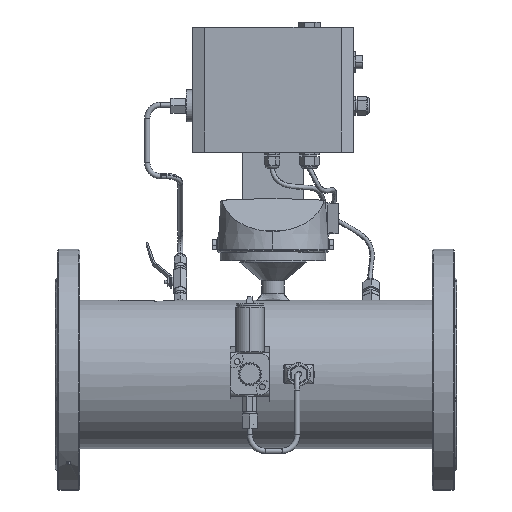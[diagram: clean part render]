
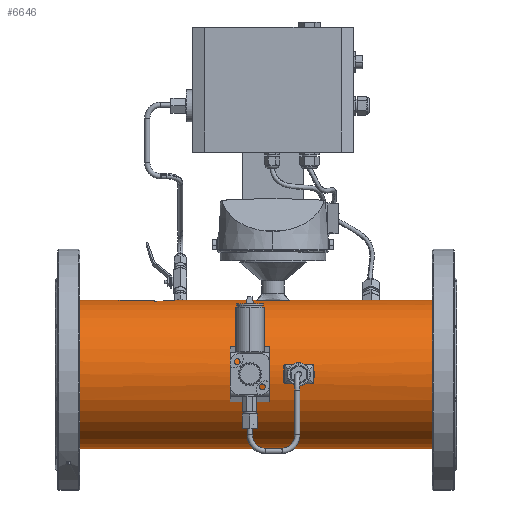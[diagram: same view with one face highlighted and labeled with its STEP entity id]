
A CAD part, top view. The second image highlights one B-rep face of the part: STEP entity #6646.
In plain terms, the highlighted cylindrical face has radius 83.2 mm (diameter 166.4 mm), a partial arc.
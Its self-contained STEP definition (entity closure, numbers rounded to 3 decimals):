
#5534=CARTESIAN_POINT('',(249.5,10.77,82.5));
#5535=CARTESIAN_POINT('',(248.563,3.59,83.437));
#5536=CARTESIAN_POINT('',(248.563,-3.59,83.437));
#5537=CARTESIAN_POINT('',(249.5,-10.77,82.5));
#5542=DIRECTION('',(1.,0.,0.));
#5543=VECTOR('',#5542,33.);
#5544=CARTESIAN_POINT('',(249.5,-10.77,82.5));
#5545=LINE('',#5544,#5543);
#5549=CARTESIAN_POINT('',(282.5,-10.77,82.5));
#5550=CARTESIAN_POINT('',(283.437,-3.59,83.437));
#5551=CARTESIAN_POINT('',(283.437,3.59,83.437));
#5552=CARTESIAN_POINT('',(282.5,10.77,82.5));
#5557=DIRECTION('',(1.,0.,0.));
#5558=VECTOR('',#5557,33.);
#5559=CARTESIAN_POINT('',(249.5,10.77,82.5));
#5560=LINE('',#5559,#5558);
#5564=CARTESIAN_POINT('',(64.34,0.,0.));
#5565=DIRECTION('',(1.,0.,0.));
#5566=DIRECTION('',(0.,1.,0.));
#5567=AXIS2_PLACEMENT_3D('',#5564,#5565,#5566);
#5572=DIRECTION('',(1.,0.,0.));
#5573=VECTOR('',#5572,40.);
#5574=CARTESIAN_POINT('',(64.34,82.983,6.));
#5575=LINE('',#5574,#5573);
#5579=CARTESIAN_POINT('',(104.34,0.,0.));
#5580=DIRECTION('',(1.,0.,0.));
#5581=DIRECTION('',(0.,0.997,0.072));
#5582=AXIS2_PLACEMENT_3D('',#5579,#5580,#5581);
#5587=CARTESIAN_POINT('',(130.321,83.2,0.));
#5588=CARTESIAN_POINT('',(121.642,83.2,5.01));
#5589=CARTESIAN_POINT('',(112.982,82.751,10.011));
#5590=CARTESIAN_POINT('',(104.34,81.837,15.));
#5595=CARTESIAN_POINT('',(218.3,83.2,0.));
#5596=CARTESIAN_POINT('',(218.3,83.2,3.62));
#5597=CARTESIAN_POINT('',(218.535,82.965,7.21));
#5598=CARTESIAN_POINT('',(219.,82.5,10.77));
#5603=DIRECTION('',(1.,0.,0.));
#5604=VECTOR('',#5603,36.);
#5605=CARTESIAN_POINT('',(219.,82.5,10.77));
#5606=LINE('',#5605,#5604);
#5610=CARTESIAN_POINT('',(255.7,83.2,0.));
#5611=CARTESIAN_POINT('',(255.7,83.2,3.62));
#5612=CARTESIAN_POINT('',(255.465,82.965,7.21));
#5613=CARTESIAN_POINT('',(255.,82.5,10.77));
#5618=CARTESIAN_POINT('',(416.,0.,0.));
#5619=DIRECTION('',(1.,0.,0.));
#5620=DIRECTION('',(0.,1.,0.));
#5621=AXIS2_PLACEMENT_3D('',#5618,#5619,#5620);
#5626=CARTESIAN_POINT('',(19.5,0.,0.));
#5627=DIRECTION('',(1.,0.,0.));
#5628=DIRECTION('',(0.,1.,0.));
#5629=AXIS2_PLACEMENT_3D('',#5626,#5627,#5628);
#5843=DIRECTION('',(-1.,0.,0.));
#5844=VECTOR('',#5843,44.84);
#5845=CARTESIAN_POINT('',(64.34,83.2,0.));
#5846=LINE('',#5845,#5844);
#5858=DIRECTION('',(-1.,0.,0.));
#5859=VECTOR('',#5858,396.5);
#5860=CARTESIAN_POINT('',(416.,-83.2,0.));
#5861=LINE('',#5860,#5859);
#5873=DIRECTION('',(-1.,0.,0.));
#5874=VECTOR('',#5873,160.3);
#5875=CARTESIAN_POINT('',(416.,83.2,0.));
#5876=LINE('',#5875,#5874);
#5903=DIRECTION('',(-1.,0.,0.));
#5904=VECTOR('',#5903,87.979);
#5905=CARTESIAN_POINT('',(218.3,83.2,0.));
#5906=LINE('',#5905,#5904);
#6395=CARTESIAN_POINT('',(416.,83.2,0.));
#6396=CARTESIAN_POINT('',(416.,-83.2,0.));
#6397=VERTEX_POINT('',#6395);
#6398=VERTEX_POINT('',#6396);
#6399=VERTEX_POINT('',#5595);
#6400=VERTEX_POINT('',#5598);
#6401=CARTESIAN_POINT('',(255.,82.5,10.77));
#6402=VERTEX_POINT('',#6401);
#6403=VERTEX_POINT('',#5610);
#6423=VERTEX_POINT('',#5534);
#6424=VERTEX_POINT('',#5537);
#6425=VERTEX_POINT('',#5549);
#6426=VERTEX_POINT('',#5552);
#6431=CARTESIAN_POINT('',(19.5,83.2,0.));
#6432=CARTESIAN_POINT('',(19.5,-83.2,0.));
#6433=VERTEX_POINT('',#6431);
#6434=VERTEX_POINT('',#6432);
#6499=CARTESIAN_POINT('',(64.34,83.2,0.));
#6500=CARTESIAN_POINT('',(64.34,82.983,6.));
#6501=VERTEX_POINT('',#6499);
#6502=VERTEX_POINT('',#6500);
#6503=CARTESIAN_POINT('',(104.34,82.983,6.));
#6504=VERTEX_POINT('',#6503);
#6505=CARTESIAN_POINT('',(104.34,81.837,15.));
#6506=VERTEX_POINT('',#6505);
#6507=VERTEX_POINT('',#5587);
#6604=CARTESIAN_POINT('',(-21.85,0.,0.));
#6605=DIRECTION('',(1.,0.,0.));
#6606=DIRECTION('',(0.,-1.,0.));
#6607=AXIS2_PLACEMENT_3D('',#6604,#6605,#6606);
#6608=CYLINDRICAL_SURFACE('',#6607,83.2);
#6610=ORIENTED_EDGE('',*,*,#6609,.T.);
#6612=ORIENTED_EDGE('',*,*,#6611,.T.);
#6614=ORIENTED_EDGE('',*,*,#6613,.T.);
#6616=ORIENTED_EDGE('',*,*,#6615,.F.);
#6618=ORIENTED_EDGE('',*,*,#6617,.F.);
#6620=ORIENTED_EDGE('',*,*,#6619,.T.);
#6622=ORIENTED_EDGE('',*,*,#6621,.T.);
#6624=ORIENTED_EDGE('',*,*,#6623,.F.);
#6626=ORIENTED_EDGE('',*,*,#6625,.F.);
#6627=ORIENTED_EDGE('',*,*,#6586,.T.);
#6629=ORIENTED_EDGE('',*,*,#6628,.T.);
#6631=ORIENTED_EDGE('',*,*,#6630,.F.);
#6633=ORIENTED_EDGE('',*,*,#6632,.F.);
#6634=EDGE_LOOP('',(#6610,#6612,#6614,#6616,#6618,#6620,#6622,#6624,#6626,#6627,
#6629,#6631,#6633));
#6635=FACE_OUTER_BOUND('',#6634,.F.);
#6637=ORIENTED_EDGE('',*,*,#6636,.T.);
#6639=ORIENTED_EDGE('',*,*,#6638,.T.);
#6641=ORIENTED_EDGE('',*,*,#6640,.T.);
#6643=ORIENTED_EDGE('',*,*,#6642,.F.);
#6644=EDGE_LOOP('',(#6637,#6639,#6641,#6643));
#6645=FACE_BOUND('',#6644,.F.);
#5538=B_SPLINE_CURVE_WITH_KNOTS('',3,(#5534,#5535,#5536,#5537),.UNSPECIFIED.,
.F.,.F.,(4,4),(0.,1.),.UNSPECIFIED.);
#5553=B_SPLINE_CURVE_WITH_KNOTS('',3,(#5549,#5550,#5551,#5552),.UNSPECIFIED.,
.F.,.F.,(4,4),(0.,1.),.UNSPECIFIED.);
#5568=CIRCLE('',#5567,83.2);
#5583=CIRCLE('',#5582,83.2);
#5591=B_SPLINE_CURVE_WITH_KNOTS('',3,(#5587,#5588,#5589,#5590),.UNSPECIFIED.,
.F.,.F.,(4,4),(0.,1.),.UNSPECIFIED.);
#5599=B_SPLINE_CURVE_WITH_KNOTS('',3,(#5595,#5596,#5597,#5598),.UNSPECIFIED.,
.F.,.F.,(4,4),(0.,1.),.UNSPECIFIED.);
#5614=B_SPLINE_CURVE_WITH_KNOTS('',3,(#5610,#5611,#5612,#5613),.UNSPECIFIED.,
.F.,.F.,(4,4),(0.,1.),.UNSPECIFIED.);
#5622=CIRCLE('',#5621,83.2);
#5630=CIRCLE('',#5629,83.2);
#6586=EDGE_CURVE('',#6397,#6398,#5622,.T.);
#6609=EDGE_CURVE('',#6501,#6502,#5568,.T.);
#6611=EDGE_CURVE('',#6502,#6504,#5575,.T.);
#6613=EDGE_CURVE('',#6504,#6506,#5583,.T.);
#6615=EDGE_CURVE('',#6507,#6506,#5591,.T.);
#6617=EDGE_CURVE('',#6399,#6507,#5906,.T.);
#6619=EDGE_CURVE('',#6399,#6400,#5599,.T.);
#6621=EDGE_CURVE('',#6400,#6402,#5606,.T.);
#6623=EDGE_CURVE('',#6403,#6402,#5614,.T.);
#6625=EDGE_CURVE('',#6397,#6403,#5876,.T.);
#6628=EDGE_CURVE('',#6398,#6434,#5861,.T.);
#6630=EDGE_CURVE('',#6433,#6434,#5630,.T.);
#6632=EDGE_CURVE('',#6501,#6433,#5846,.T.);
#6636=EDGE_CURVE('',#6423,#6424,#5538,.T.);
#6638=EDGE_CURVE('',#6424,#6425,#5545,.T.);
#6640=EDGE_CURVE('',#6425,#6426,#5553,.T.);
#6642=EDGE_CURVE('',#6423,#6426,#5560,.T.);
#6646=ADVANCED_FACE('',(#6635,#6645),#6608,.T.);
